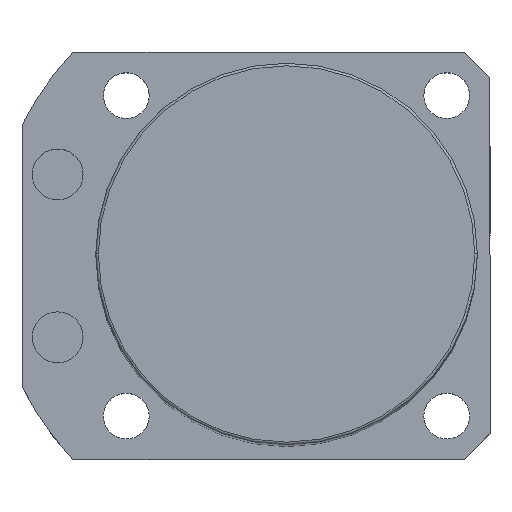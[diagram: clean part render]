
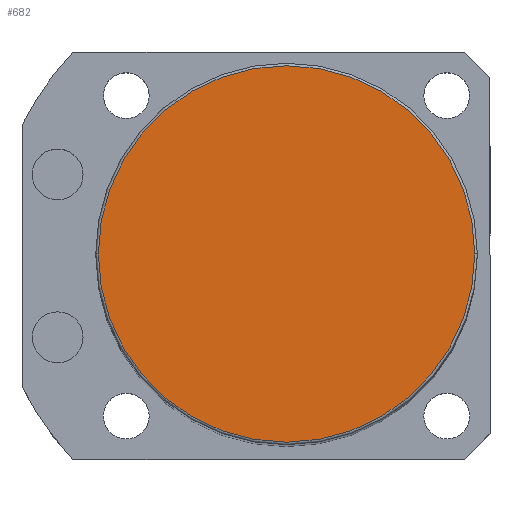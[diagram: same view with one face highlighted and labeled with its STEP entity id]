
A CAD part, top view. The second image highlights one B-rep face of the part: STEP entity #682.
In plain terms, the highlighted planar face has unit normal (0, 0, 1).
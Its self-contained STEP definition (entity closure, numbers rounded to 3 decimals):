
#13 = AXIS2_PLACEMENT_3D ( 'NONE', #189, #1735, #2840 ) ;
#55 = CIRCLE ( 'NONE', #379, 37. ) ;
#126 = EDGE_LOOP ( 'NONE', ( #1994, #1512 ) ) ;
#189 = CARTESIAN_POINT ( 'NONE',  ( 0., 0., 230.5 ) ) ;
#371 = CARTESIAN_POINT ( 'NONE',  ( 0., 0., 230.5 ) ) ;
#379 = AXIS2_PLACEMENT_3D ( 'NONE', #371, #2569, #1655 ) ;
#682 = ADVANCED_FACE ( 'NONE', ( #2536 ), #1299, .T. ) ;
#963 = EDGE_CURVE ( 'NONE', #1995, #1644, #55, .T. ) ;
#1107 = CARTESIAN_POINT ( 'NONE',  ( 37., 0., 230.5 ) ) ;
#1299 = PLANE ( 'NONE',  #2042 ) ;
#1365 = CARTESIAN_POINT ( 'NONE',  ( -37., 0., 230.5 ) ) ;
#1512 = ORIENTED_EDGE ( 'NONE', *, *, #1742, .T. ) ;
#1517 = DIRECTION ( 'NONE',  ( 0., 0., 1. ) ) ;
#1644 = VERTEX_POINT ( 'NONE', #1365 ) ;
#1655 = DIRECTION ( 'NONE',  ( 1., 0., 0. ) ) ;
#1723 = DIRECTION ( 'NONE',  ( 1., 0., 0. ) ) ;
#1735 = DIRECTION ( 'NONE',  ( 0., 0., 1. ) ) ;
#1742 = EDGE_CURVE ( 'NONE', #1644, #1995, #1833, .T. ) ;
#1833 = CIRCLE ( 'NONE', #13, 37. ) ;
#1994 = ORIENTED_EDGE ( 'NONE', *, *, #963, .T. ) ;
#1995 = VERTEX_POINT ( 'NONE', #1107 ) ;
#2042 = AXIS2_PLACEMENT_3D ( 'NONE', #2849, #1517, #1723 ) ;
#2536 = FACE_OUTER_BOUND ( 'NONE', #126, .T. ) ;
#2569 = DIRECTION ( 'NONE',  ( 0., 0., 1. ) ) ;
#2840 = DIRECTION ( 'NONE',  ( 1., 0., 0. ) ) ;
#2849 = CARTESIAN_POINT ( 'NONE',  ( 0., 0., 230.5 ) ) ;
